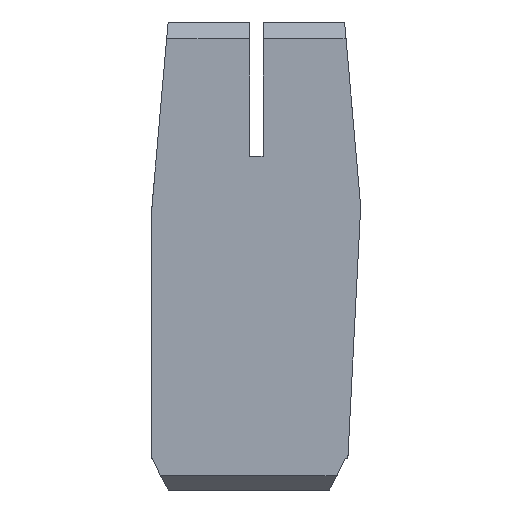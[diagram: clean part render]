
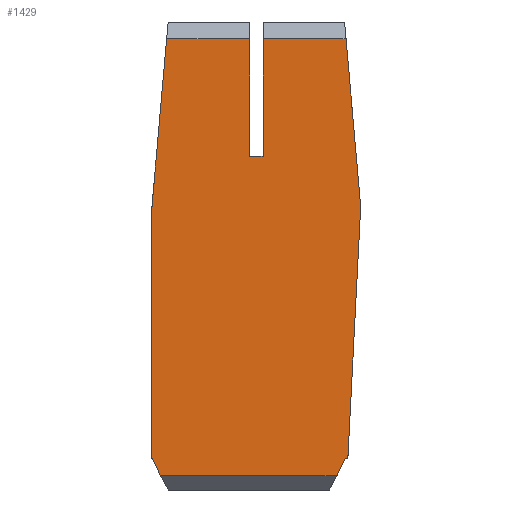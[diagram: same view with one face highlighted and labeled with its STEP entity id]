
A CAD part, front view. The second image highlights one B-rep face of the part: STEP entity #1429.
In plain terms, the highlighted planar face has unit normal (0, -1, 0).
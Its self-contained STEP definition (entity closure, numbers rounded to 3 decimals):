
#12 = LINE ( 'NONE', #223, #482 ) ;
#14 = CARTESIAN_POINT ( 'NONE',  ( 6.196, -9.5, -7.969 ) ) ;
#19 = CARTESIAN_POINT ( 'NONE',  ( -5.975, -9.5, 1.135 ) ) ;
#34 = CARTESIAN_POINT ( 'NONE',  ( 6.087, -9.5, 17. ) ) ;
#56 = ORIENTED_EDGE ( 'NONE', *, *, #563, .T. ) ;
#59 = DIRECTION ( 'NONE',  ( 0., -1., 0. ) ) ;
#88 = EDGE_CURVE ( 'NONE', #1064, #648, #415, .T. ) ;
#93 = ORIENTED_EDGE ( 'NONE', *, *, #516, .T. ) ;
#94 = LINE ( 'NONE', #414, #506 ) ;
#116 = CARTESIAN_POINT ( 'NONE',  ( -5.433, -9.5, -7.969 ) ) ;
#121 = VERTEX_POINT ( 'NONE', #124 ) ;
#124 = CARTESIAN_POINT ( 'NONE',  ( 1.15, -9.5, 10. ) ) ;
#128 = CARTESIAN_POINT ( 'NONE',  ( 7., -9.5, -7.969 ) ) ;
#129 = ORIENTED_EDGE ( 'NONE', *, *, #538, .T. ) ;
#134 = DIRECTION ( 'NONE',  ( 1., 0., 0. ) ) ;
#147 = DIRECTION ( 'NONE',  ( 0., 0., 1. ) ) ;
#149 = CARTESIAN_POINT ( 'NONE',  ( -4.587, -9.5, 17. ) ) ;
#154 = VERTEX_POINT ( 'NONE', #253 ) ;
#170 = CARTESIAN_POINT ( 'NONE',  ( 1.15, -9.5, 0. ) ) ;
#182 = VECTOR ( 'NONE', #649, 1000. ) ;
#198 = EDGE_CURVE ( 'NONE', #1064, #217, #489, .T. ) ;
#208 = ORIENTED_EDGE ( 'NONE', *, *, #1005, .F. ) ;
#217 = VERTEX_POINT ( 'NONE', #237 ) ;
#223 = CARTESIAN_POINT ( 'NONE',  ( 7., -9.5, 10. ) ) ;
#237 = CARTESIAN_POINT ( 'NONE',  ( 0.35, -9.5, 10. ) ) ;
#244 = VECTOR ( 'NONE', #1470, 1000. ) ;
#253 = CARTESIAN_POINT ( 'NONE',  ( -5.5, -9.5, -7.969 ) ) ;
#265 = VECTOR ( 'NONE', #1410, 1000. ) ;
#269 = DIRECTION ( 'NONE',  ( -0.051, 0., -0.999 ) ) ;
#276 = LINE ( 'NONE', #834, #1372 ) ;
#304 = CARTESIAN_POINT ( 'NONE',  ( -4.959, -9.5, -9. ) ) ;
#307 = CARTESIAN_POINT ( 'NONE',  ( 7., -9.5, -7.969 ) ) ;
#362 = CARTESIAN_POINT ( 'NONE',  ( 5.553, -9.5, -9. ) ) ;
#394 = CARTESIAN_POINT ( 'NONE',  ( 7.57, -9.5, 0.05 ) ) ;
#411 = VECTOR ( 'NONE', #1400, 1000. ) ;
#414 = CARTESIAN_POINT ( 'NONE',  ( 9.227, -9.5, -1.026 ) ) ;
#415 = LINE ( 'NONE', #1247, #244 ) ;
#417 = VERTEX_POINT ( 'NONE', #903 ) ;
#440 = VERTEX_POINT ( 'NONE', #14 ) ;
#481 = DIRECTION ( 'NONE',  ( 0.417, 0., -0.909 ) ) ;
#482 = VECTOR ( 'NONE', #686, 1000. ) ;
#489 = LINE ( 'NONE', #587, #558 ) ;
#496 = CARTESIAN_POINT ( 'NONE',  ( 0.35, -9.5, 17. ) ) ;
#506 = VECTOR ( 'NONE', #526, 1000. ) ;
#512 = ORIENTED_EDGE ( 'NONE', *, *, #935, .F. ) ;
#516 = EDGE_CURVE ( 'NONE', #417, #440, #807, .T. ) ;
#526 = DIRECTION ( 'NONE',  ( 0.418, 0., 0.908 ) ) ;
#531 = VECTOR ( 'NONE', #269, 1000. ) ;
#532 = VECTOR ( 'NONE', #1189, 1000. ) ;
#538 = EDGE_CURVE ( 'NONE', #801, #1336, #1168, .T. ) ;
#558 = VECTOR ( 'NONE', #816, 1000. ) ;
#563 = EDGE_CURVE ( 'NONE', #929, #1055, #948, .T. ) ;
#565 = LINE ( 'NONE', #1363, #1479 ) ;
#574 = ORIENTED_EDGE ( 'NONE', *, *, #868, .T. ) ;
#587 = CARTESIAN_POINT ( 'NONE',  ( 0.35, -9.5, 0. ) ) ;
#648 = VERTEX_POINT ( 'NONE', #149 ) ;
#649 = DIRECTION ( 'NONE',  ( 1., 0., 0. ) ) ;
#661 = ORIENTED_EDGE ( 'NONE', *, *, #88, .T. ) ;
#662 = LINE ( 'NONE', #879, #1366 ) ;
#676 = VECTOR ( 'NONE', #134, 1000. ) ;
#678 = CARTESIAN_POINT ( 'NONE',  ( -5.5, -9.5, 6.57 ) ) ;
#686 = DIRECTION ( 'NONE',  ( 1., 0., 0. ) ) ;
#692 = EDGE_CURVE ( 'NONE', #121, #845, #731, .T. ) ;
#706 = DIRECTION ( 'NONE',  ( 1., 0., 0. ) ) ;
#731 = LINE ( 'NONE', #170, #532 ) ;
#739 = ORIENTED_EDGE ( 'NONE', *, *, #1089, .T. ) ;
#745 = CARTESIAN_POINT ( 'NONE',  ( 6.603, -9.5, 0.02 ) ) ;
#801 = VERTEX_POINT ( 'NONE', #304 ) ;
#807 = LINE ( 'NONE', #128, #1302 ) ;
#816 = DIRECTION ( 'NONE',  ( 0., 0., -1. ) ) ;
#827 = CARTESIAN_POINT ( 'NONE',  ( 6.96, -9.5, 7.027 ) ) ;
#830 = ORIENTED_EDGE ( 'NONE', *, *, #1184, .T. ) ;
#834 = CARTESIAN_POINT ( 'NONE',  ( -5.5, -9.5, 0. ) ) ;
#845 = VERTEX_POINT ( 'NONE', #1343 ) ;
#860 = FACE_OUTER_BOUND ( 'NONE', #977, .T. ) ;
#868 = EDGE_CURVE ( 'NONE', #648, #1275, #1166, .T. ) ;
#879 = CARTESIAN_POINT ( 'NONE',  ( 7., -9.5, 17. ) ) ;
#883 = AXIS2_PLACEMENT_3D ( 'NONE', #1426, #59, #1286 ) ;
#903 = CARTESIAN_POINT ( 'NONE',  ( 6.028, -9.5, -7.969 ) ) ;
#929 = VERTEX_POINT ( 'NONE', #827 ) ;
#935 = EDGE_CURVE ( 'NONE', #217, #121, #12, .T. ) ;
#941 = ORIENTED_EDGE ( 'NONE', *, *, #1227, .T. ) ;
#948 = LINE ( 'NONE', #394, #265 ) ;
#963 = PLANE ( 'NONE',  #883 ) ;
#977 = EDGE_LOOP ( 'NONE', ( #941, #129, #739, #93, #208, #56, #830, #1255, #512, #1464, #661, #574, #1083, #1102 ) ) ;
#1005 = EDGE_CURVE ( 'NONE', #929, #440, #1294, .T. ) ;
#1028 = EDGE_CURVE ( 'NONE', #154, #1275, #276, .T. ) ;
#1055 = VERTEX_POINT ( 'NONE', #34 ) ;
#1064 = VERTEX_POINT ( 'NONE', #496 ) ;
#1083 = ORIENTED_EDGE ( 'NONE', *, *, #1028, .F. ) ;
#1089 = EDGE_CURVE ( 'NONE', #1336, #417, #94, .T. ) ;
#1102 = ORIENTED_EDGE ( 'NONE', *, *, #1427, .T. ) ;
#1166 = LINE ( 'NONE', #19, #411 ) ;
#1168 = LINE ( 'NONE', #1266, #676 ) ;
#1184 = EDGE_CURVE ( 'NONE', #1055, #845, #662, .T. ) ;
#1189 = DIRECTION ( 'NONE',  ( 0., 0., 1. ) ) ;
#1222 = VERTEX_POINT ( 'NONE', #116 ) ;
#1227 = EDGE_CURVE ( 'NONE', #1222, #801, #565, .T. ) ;
#1247 = CARTESIAN_POINT ( 'NONE',  ( 7., -9.5, 17. ) ) ;
#1255 = ORIENTED_EDGE ( 'NONE', *, *, #692, .F. ) ;
#1266 = CARTESIAN_POINT ( 'NONE',  ( 7., -9.5, -9. ) ) ;
#1275 = VERTEX_POINT ( 'NONE', #678 ) ;
#1286 = DIRECTION ( 'NONE',  ( 0., 0., -1. ) ) ;
#1294 = LINE ( 'NONE', #745, #531 ) ;
#1302 = VECTOR ( 'NONE', #706, 1000. ) ;
#1336 = VERTEX_POINT ( 'NONE', #362 ) ;
#1337 = LINE ( 'NONE', #307, #182 ) ;
#1341 = DIRECTION ( 'NONE',  ( -1., 0., 0. ) ) ;
#1343 = CARTESIAN_POINT ( 'NONE',  ( 1.15, -9.5, 17. ) ) ;
#1363 = CARTESIAN_POINT ( 'NONE',  ( -6.29, -9.5, -6.103 ) ) ;
#1366 = VECTOR ( 'NONE', #1341, 1000. ) ;
#1372 = VECTOR ( 'NONE', #147, 1000. ) ;
#1400 = DIRECTION ( 'NONE',  ( -0.087, 0., -0.996 ) ) ;
#1410 = DIRECTION ( 'NONE',  ( -0.087, 0., 0.996 ) ) ;
#1426 = CARTESIAN_POINT ( 'NONE',  ( 7., -9.5, 0. ) ) ;
#1427 = EDGE_CURVE ( 'NONE', #154, #1222, #1337, .T. ) ;
#1429 = ADVANCED_FACE ( 'NONE', ( #860 ), #963, .T. ) ;
#1464 = ORIENTED_EDGE ( 'NONE', *, *, #198, .F. ) ;
#1470 = DIRECTION ( 'NONE',  ( -1., 0., 0. ) ) ;
#1479 = VECTOR ( 'NONE', #481, 1000. ) ;
